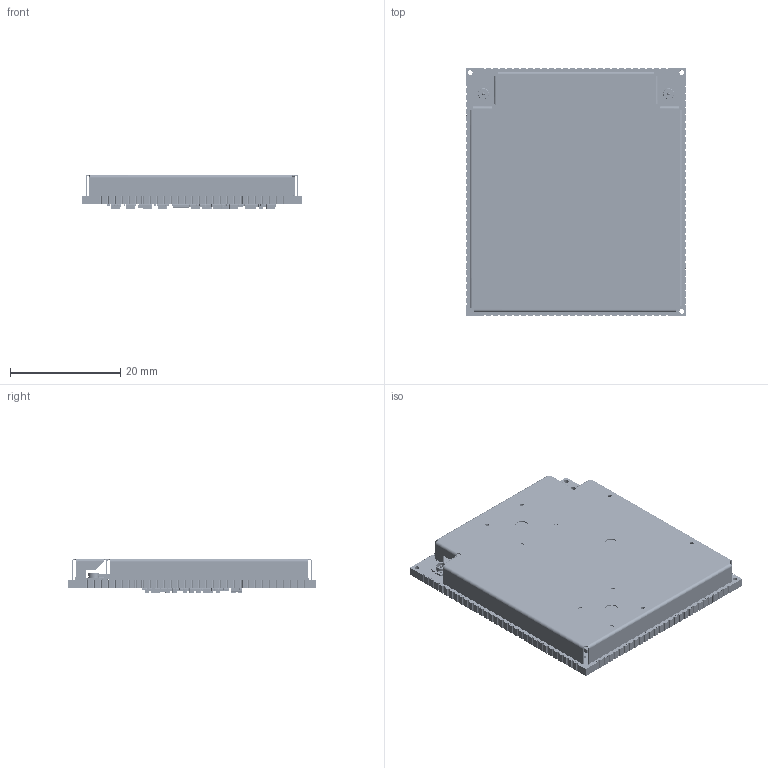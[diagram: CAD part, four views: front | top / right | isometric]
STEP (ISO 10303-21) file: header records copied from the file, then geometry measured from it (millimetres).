
FILE_DESCRIPTION(('Open CASCADE Model'),'2;1');
FILE_NAME('Open CASCADE Shape Model','2021-07-01T17:08:29',('Author'),( 'Open CASCADE'),'Open CASCADE STEP processor 6.8','Open CASCADE 6.8' ,'Unknown');
FILE_SCHEMA(('AUTOMOTIVE_DESIGN { 1 0 10303 214 1 1 1 1 }'));
Length unit declared in the file: millimetre
Products named in the file (704): PCB; Board; D2; 920069504; 1249494840; Extruded; L37; CAPC0603X33; 1249494704; L36; 1249494024; C62; CAPC1005X55L25; 1249495520; SH1; 60006380-01_REV_C1; 1249491848; 1249491984; 1249492120; 1249492256; 1249492392; 1249492528; 1249492664; 1249492800; 1249492936; 1249493072; L35; 1249493616; L34; 1249493888; R102; RESC0603X33; C322; 920070016; 1249495248; C321; 1249493752; C320; C319; 920069632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
Assembly tree (4164 placements, depth 4):
  PCB
    Board
    D2
      920069504
      1249494840  x2
        Extruded
    L37
      CAPC0603X33
      1249494704  x2
        Extruded
    L36
      CAPC0603X33
      1249494024  x2
        Extruded
    C62
      CAPC1005X55L25
      1249495520  x2
        Extruded
    SH1
      60006380-01_REV_C1
      1249491848
        Extruded
      1249491984
        Extruded
      1249492120
        Extruded
      1249492256
        Extruded
      1249492392
        Extruded
      1249492528
        Extruded
      1249492664
        Extruded
      1249492800
        Extruded
      1249492936
        Extruded
      1249493072
        Extruded
    L35
      CAPC0603X33
      1249493616  x2
        Extruded
    L34
      CAPC0603X33
      1249493888  x2
        Extruded
    R102
      RESC0603X33
      1249493616  x2
        Extruded
    C322
      920070016
      1249495248  x2
        Extruded
    C321
      CAPC0603X33
      1249493752  x2
        Extruded
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Bounding box: 40 x 45 x 6.25 mm (x, y, z)
Volume: 4731.9 mm3; surface area: 15413.8 mm2
Topology: 5745 solids, 5745 shells, 56128 faces, 131512 edges, 81099 vertices
Faces by surface type: plane 38158, cylinder 12221, sphere 5678, torus 36, cone 16, bspline 11, revolution 8
Full cylindrical faces by diameter (mm): 0.25 x153, 0.3 x212, 0.35 x6, 0.4 x1283, 0.6 x6, 0.65 x4, 0.8 x1, 0.85 x3
Entity records: 271747 total; most frequent: CARTESIAN_POINT 48201, DIRECTION 38170, ORIENTED_EDGE 30798, EDGE_CURVE 15395, AXIS2_PLACEMENT_3D 14577, VERTEX_POINT 11820, LINE 9010, VECTOR 9010
